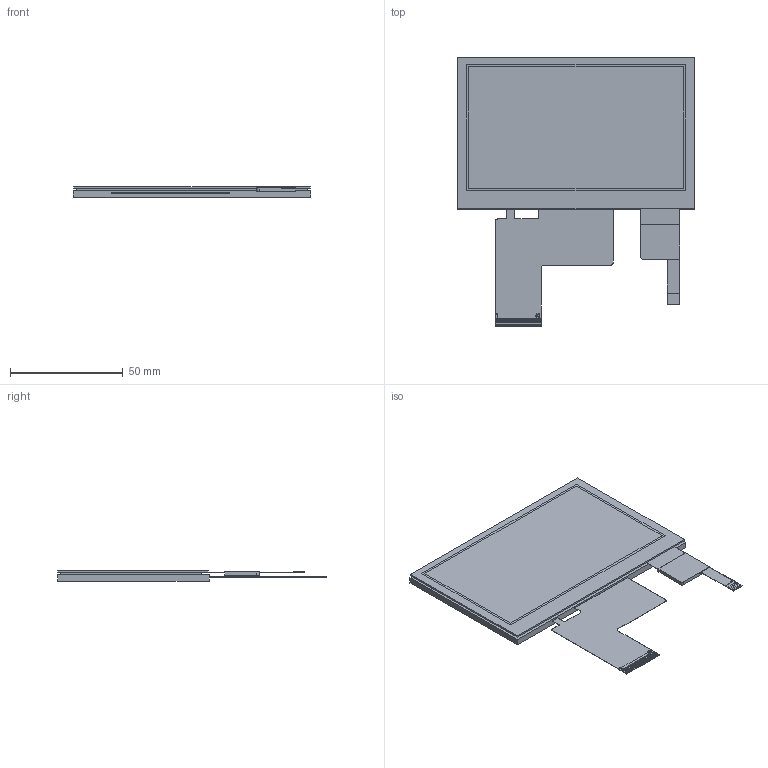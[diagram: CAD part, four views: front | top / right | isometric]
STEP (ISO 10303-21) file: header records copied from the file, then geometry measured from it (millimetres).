
FILE_DESCRIPTION (( 'STEP AP214' ), '1' );
FILE_NAME ('CFAF800480H0-043SC.STEP', '2023-02-07T22:58:37', ( '' ), ( '' ), 'SwSTEP 2.0', 'SolidWorks 2021', '' );
FILE_SCHEMA (( 'AUTOMOTIVE_DESIGN' ));
Length unit declared in the file: millimetre
Products named in the file (3): CFAF800480H0-043SC; CFAF800480H0-043SC capacitive touchscreen; CFAF800480H0-043SN
Assembly tree (2 placements, depth 2):
  CFAF800480H0-043SC
    CFAF800480H0-043SC capacitive touchscreen
    CFAF800480H0-043SN
Bounding box: 105.5 x 119.15 x 4.6 mm (x, y, z)
Volume: 32540.2 mm3; surface area: 47655 mm2
Topology: 6 solids, 6 shells, 304 faces, 862 edges, 580 vertices
Faces by surface type: plane 289, bspline 9, cylinder 6
Entity records: 12677 total; most frequent: CARTESIAN_POINT 2536, ORIENTED_EDGE 1724, DIRECTION 1456, EDGE_CURVE 862, LINE 832, VECTOR 832, VERTEX_POINT 580, EDGE_LOOP 314
